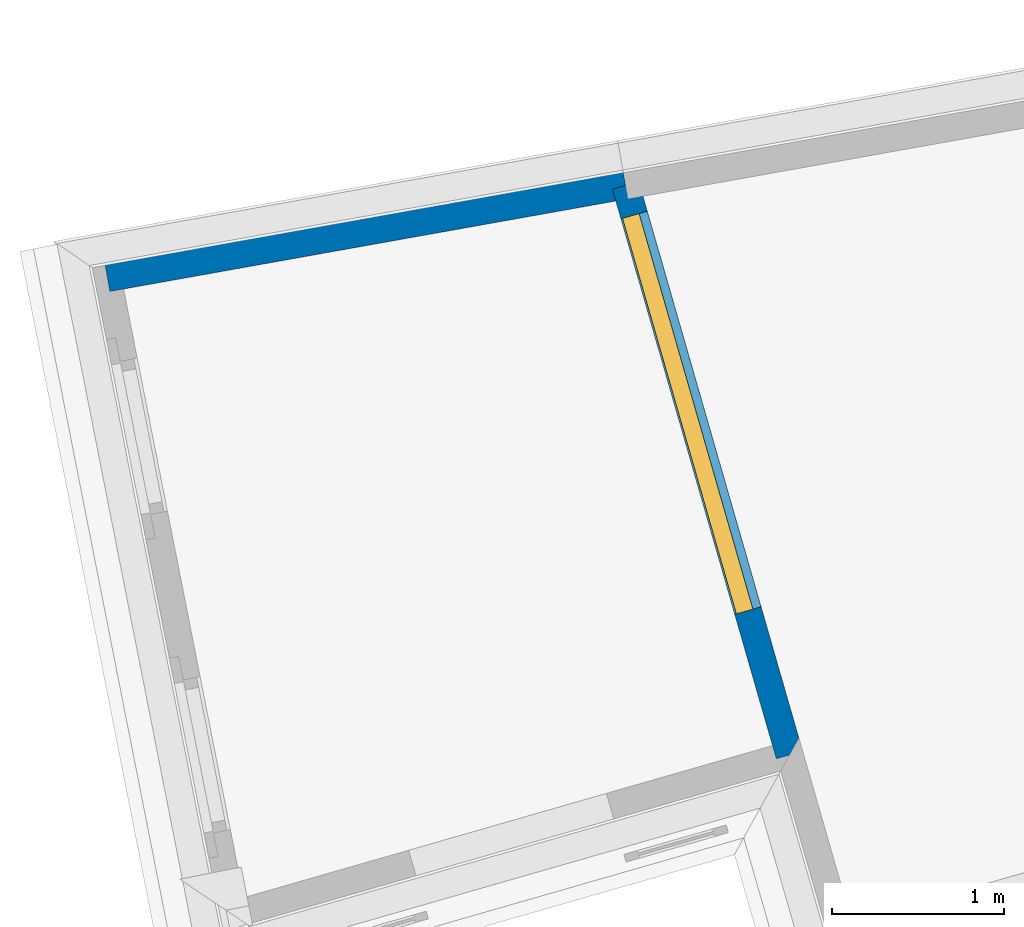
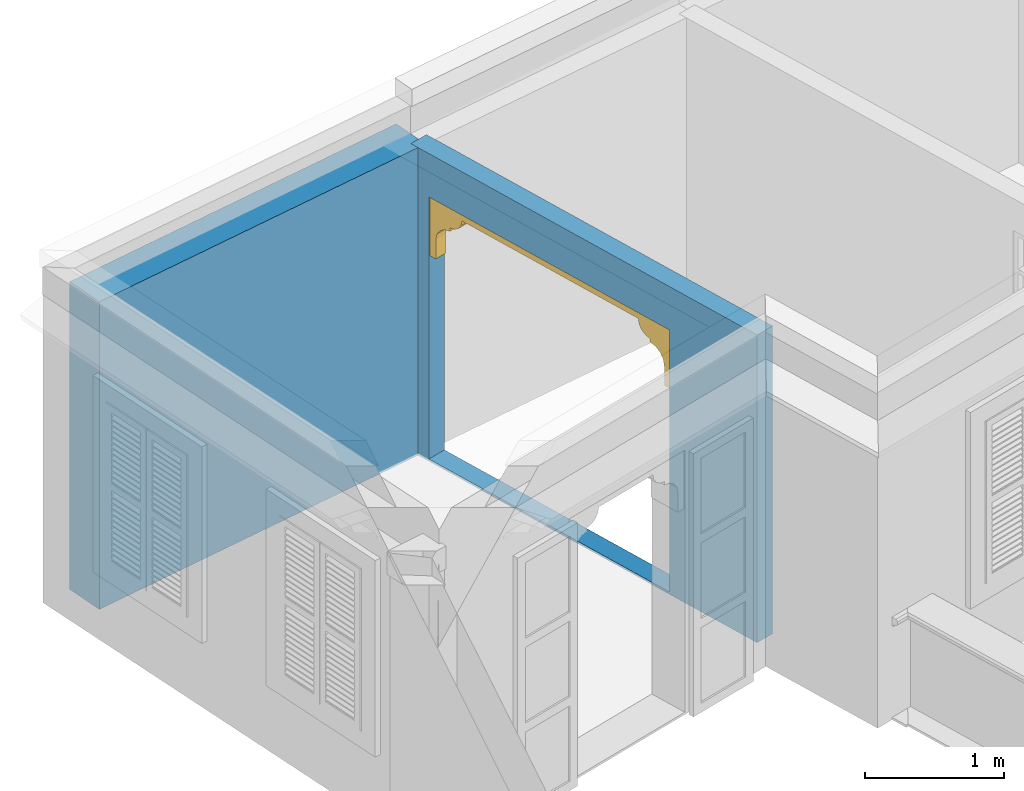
# One storey, part 16 of 22: 2 walls, 1 door, 1 opening.
"""IFC4 building model written with IfcOpenShell, lengths in metres."""

from ifc_helpers import new_model, si_unit, frame, origin, origin_with_axes, place, context, subcontext, project, spatial, polyline, outline, extrude, faceted_brep, source, transform, mapped, material, layer, layer_set, layer_usage, type_object, type_shapes, element, fill, save


model = new_model("IFC4")

# Units and contexts
model_context = context("Model", 3, world=origin_with_axes())
body_context = subcontext(model_context, "Body", "Model", "MODEL_VIEW")
ifc_project = project(units=[si_unit("PLANEANGLEUNIT", "RADIAN"), si_unit("MASSUNIT", "GRAM", prefix="KILO"), si_unit("FORCEUNIT", "NEWTON", prefix="KILO"), si_unit("LENGTHUNIT", "METRE"), si_unit("AREAUNIT", "SQUARE_METRE"), si_unit("VOLUMEUNIT", "CUBIC_METRE")], contexts=[model_context, model_context])

# Site, building, storey
site_placement = place(None, origin_with_axes())
site = spatial("IfcSite", under=ifc_project, at=site_placement, Name="Site plot-9", CompositionType="ELEMENT")
building_placement = place(None, origin_with_axes())
building = spatial("IfcBuilding", under=site, at=building_placement, Name="Building plot-9", CompositionType="ELEMENT")
storey_placement = place(None, frame((0.0, 0.0, 2.85), z_axis=(0.0, 0.0, 1.0), x_axis=(1.0, 0.0, 0.0)))
storey = spatial("IfcBuildingStorey", under=building, at=storey_placement, Name="plot-9 1", CompositionType="ELEMENT", Elevation=2.85)

# Wall
ifc_material_1 = material(Name="Masonry")
ifc_layer_1 = layer(ifc_material_1, 0.33, ventilated=False)
ifc_layer_set_1 = layer_set([ifc_layer_1], Name="party_0.08_0.25")
ifc_layer_usage_1 = layer_usage(ifc_layer_set_1, "AXIS2", "POSITIVE", -0.25)
wall_type_1 = type_object("IfcWallType", Name="party_0.08_0.25", PredefinedType="SOLIDWALL", material=ifc_layer_set_1)
wall_1_placement = place(storey_placement, frame((-20.0297581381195, 8.07933559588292, 0.0), z_axis=(0.0, 0.0, 1.0), x_axis=(-0.984393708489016, -0.17598018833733, 0.0)))
element("IfcWall", 1, at=wall_1_placement, inside=storey, type_object=wall_type_1, material=ifc_layer_usage_1, Name="party", context=body_context, shape_type="SweptSolid", body=[
    extrude(outline(polyline([(-1.56804308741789e-16, 0.0800000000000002), (1.01450880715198e-15, -0.25), (3.06926455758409, -0.249999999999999), (3.06926455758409, 0.0800000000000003), (-1.56804308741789e-16, 0.0800000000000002)])), origin_with_axes(), (0.0, 0.0, 1.0), 2.7),
])

# Wall, opening, door
ifc_material_2 = material(Name="Masonry")
ifc_layer_2 = layer(ifc_material_2, 0.16, ventilated=False)
ifc_layer_set_2 = layer_set([ifc_layer_2], Name="interior_0.08_0.08")
ifc_layer_usage_2 = layer_usage(ifc_layer_set_2, "AXIS2", "POSITIVE", -0.08)
wall_type_2 = type_object("IfcWallType", Name="interior_0.08_0.08", PredefinedType="SOLIDWALL", material=ifc_layer_set_2)
wall_2_placement = place(storey_placement, frame((-20.0297581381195, 8.07933559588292, 0.0), z_axis=(0.0, 0.0, 1.0), x_axis=(0.276523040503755, -0.961007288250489, 0.0)))
wall_2 = element("IfcWall", 2, at=wall_2_placement, inside=storey, type_object=wall_type_2, material=ifc_layer_usage_2, Name="interior", context=body_context, shape_type="SweptSolid", body=[
    extrude(outline(polyline([(-7.05644148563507e-16, 0.0799999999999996), (6.95846974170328e-16, -0.0799999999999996), (3.45658057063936, -0.0799999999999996), (3.45658057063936, 0.0799999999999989), (-7.05644148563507e-16, 0.0799999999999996)])), origin_with_axes(), (0.0, 0.0, 1.0), 2.7),
])
opening_placement = place(wall_2_placement, frame((0.180000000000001, 0.0, 0.02)))
opening = element("IfcOpeningElement", 3, at=opening_placement, cuts=wall_2, Name="My Opening", ObjectType="Opening", context=body_context, shape_type="SweptSolid", body=[
    extrude(outline(polyline([(0.0, -0.1), (2.4, -0.100000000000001), (2.4, 1.1), (-7.49400541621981e-16, 1.1), (0.0, -0.1)])), origin_with_axes(), (0.0, 0.0, 1.0), 2.3),
])
door_type = type_object("IfcDoorType", Name="arch-2400x2300-thin", OperationType="SINGLE_SWING_LEFT", PredefinedType="NOTDEFINED")
shared_shape = source(origin(), body_context, "Body", "Brep", [
    faceted_brep([(2.4, 0.03, 1.78), (2.4, 0.03, 1.95), (2.34, 0.03, 1.95), (2.34, 0.03, 1.78), (2.34, 0.13, 1.95), (2.34, 0.13, 1.78), (2.4, 0.03, 2.12), (2.329, 0.03, 2.004), (2.4, 0.13, 1.78), (2.4, 0.13, 1.95), (2.329, 0.13, 2.004), (2.299, 0.03, 2.049), (2.4, 0.13, 2.12), (2.299, 0.13, 2.049), (2.254, 0.03, 2.079), (2.4, 0.13, 2.29), (2.4, 0.03, 2.29), (2.254, 0.13, 2.079), (2.2, 0.03, 2.09), (2.2, 0.03, 2.12), (2.154, 0.03, 2.129), (2.08, 0.13, 2.29), (2.08, 0.03, 2.29), (2.2, 0.13, 2.12), (2.154, 0.13, 2.129), (2.2, 0.13, 2.09), (2.115, 0.03, 2.155), (2.089, 0.13, 2.194), (2.08, 0.13, 2.24), (2.08, 0.03, 2.24), (2.089, 0.03, 2.194), (2.115, 0.13, 2.155), (0.06, 0.03, 1.78), (0.06, 0.03, 1.95), (0.0, 0.03, 1.95), (0.0, 0.03, 1.78), (0.06, 0.13, 1.78), (0.06, 0.13, 1.95), (0.071, 0.03, 2.004), (0.0, 0.03, 2.12), (0.0, 0.13, 1.95), (0.0, 0.13, 1.78), (0.071, 0.13, 2.004), (0.101, 0.03, 2.049), (0.0, 0.13, 2.12), (0.101, 0.13, 2.049), (0.146, 0.03, 2.079), (0.0, 0.03, 2.29), (0.0, 0.13, 2.29), (0.146, 0.13, 2.079), (0.2, 0.03, 2.12), (0.2, 0.03, 2.09), (0.246, 0.03, 2.129), (0.32, 0.03, 2.29), (0.32, 0.13, 2.29), (0.246, 0.13, 2.129), (0.2, 0.13, 2.12), (0.2, 0.13, 2.09), (0.285, 0.03, 2.155), (0.32, 0.13, 2.24), (0.311, 0.13, 2.194), (0.311, 0.03, 2.194), (0.32, 0.03, 2.24), (0.285, 0.13, 2.155)], [[[0, 1, 2, 3]], [[4, 5, 3, 2]], [[1, 6, 7, 2]], [[1, 0, 8, 9]], [[5, 8, 0, 3]], [[5, 4, 9, 8]], [[10, 4, 2, 7]], [[6, 11, 7]], [[6, 1, 9, 12]], [[4, 10, 12, 9]], [[13, 10, 7, 11]], [[6, 14, 11]], [[12, 15, 16, 6]], [[12, 10, 13]], [[17, 13, 11, 14]], [[18, 14, 6, 19]], [[6, 16, 20, 19]], [[16, 15, 21, 22]], [[23, 24, 15, 12]], [[12, 13, 17]], [[25, 17, 14, 18]], [[23, 25, 18, 19]], [[24, 23, 19, 20]], [[16, 26, 20]], [[15, 27, 28, 21]], [[16, 22, 29, 30]], [[31, 15, 24]], [[23, 12, 17, 25]], [[31, 24, 20, 26]], [[16, 30, 26]], [[28, 27, 30, 29]], [[27, 15, 31]], [[27, 31, 26, 30]], [[32, 33, 34, 35]], [[33, 32, 36, 37]], [[33, 38, 39, 34]], [[35, 34, 40, 41]], [[32, 35, 41, 36]], [[41, 40, 37, 36]], [[38, 33, 37, 42]], [[38, 43, 39]], [[44, 40, 34, 39]], [[40, 44, 42, 37]], [[43, 38, 42, 45]], [[43, 46, 39]], [[39, 47, 48, 44]], [[45, 42, 44]], [[46, 43, 45, 49]], [[50, 39, 46, 51]], [[50, 52, 47, 39]], [[53, 54, 48, 47]], [[44, 48, 55, 56]], [[49, 45, 44]], [[51, 46, 49, 57]], [[50, 51, 57, 56]], [[52, 50, 56, 55]], [[52, 58, 47]], [[54, 59, 60, 48]], [[61, 62, 53, 47]], [[55, 48, 63]], [[57, 49, 44, 56]], [[58, 52, 55, 63]], [[58, 61, 47]], [[62, 61, 60, 59]], [[63, 48, 60]], [[61, 58, 63, 60]], [[62, 59, 28, 29]], [[59, 54, 21, 28]], [[53, 62, 29, 22]], [[54, 53, 22, 21]]]),
])
type_shapes(door_type, [shared_shape])
door_placement = place(storey_placement, frame((-20.0760847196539, 7.87870197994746, 0.02), z_axis=(0.0, 0.0, 1.0), x_axis=(0.663655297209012, -2.30641749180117, 0.0)))
door = element("IfcDoor", 4, at=door_placement, inside=storey, type_object=door_type, Name="circulation inside door", OverallHeight=2.3, OverallWidth=2.4, context=body_context, shape_type="MappedRepresentation", body=[
    mapped(shared_shape, transform((0.0, 0.0, 0.0), scale=1.0)),
])
fill(opening, door)

save(model, "model.ifc")
